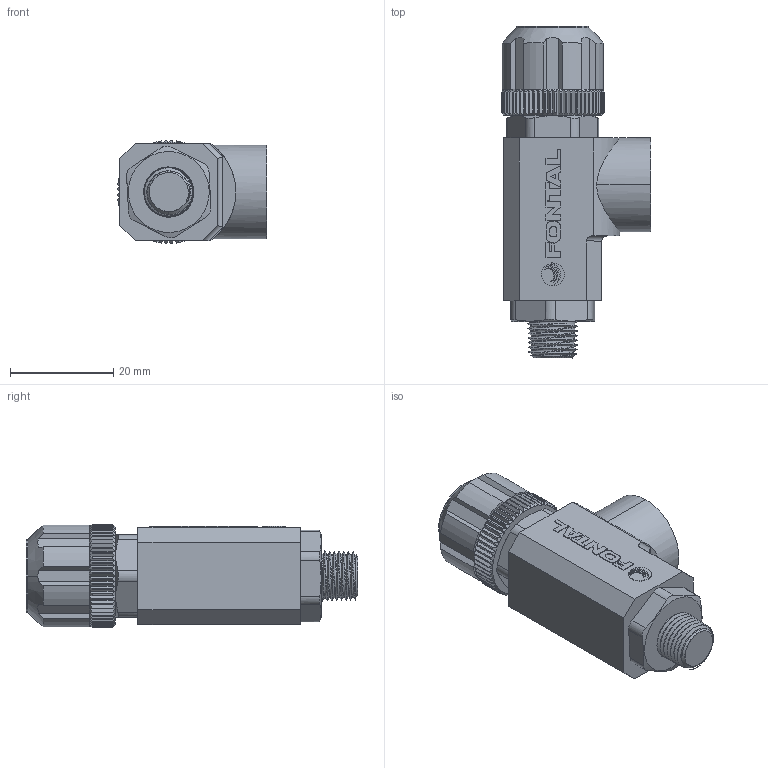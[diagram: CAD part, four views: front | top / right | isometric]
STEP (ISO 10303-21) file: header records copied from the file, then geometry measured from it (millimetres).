
FILE_DESCRIPTION (( 'STEP AP203' ), '1' );
FILE_NAME ('SPE-06-1.STEP', '2016-01-14T20:15:51', ( '' ), ( '' ), 'SwSTEP 2.0', 'SolidWorks 2014', '' );
FILE_SCHEMA (( 'CONFIG_CONTROL_DESIGN' ));
Length unit declared in the file: millimetre
Products named in the file (8): SPE-06-3; SP-06-4; SPE=1-8; SPE-06-2; SPE-06-1; SP-06-6; ZH-2H-MARK
Assembly tree (7 placements, depth 2):
  SPE-06-1
    SPE-06-1
    SPE-06-2
    SP-06-4
    SP-06-6
    SPE-06-3
    ZH-2H-MARK
    SPE=1-8
Bounding box: 28.99 x 64.38 x 19.98 mm (x, y, z)
Volume: 19945.2 mm3; surface area: 7976.5 mm2
Topology: 13 solids, 13 shells, 462 faces, 1175 edges, 739 vertices
Faces by surface type: plane 248, cylinder 112, cone 90, bspline 12
Entity records: 18589 total; most frequent: CARTESIAN_POINT 7162, ORIENTED_EDGE 2346, DIRECTION 2008, EDGE_CURVE 1173, VERTEX_POINT 739, AXIS2_PLACEMENT_3D 738, VECTOR 532, LINE 532
